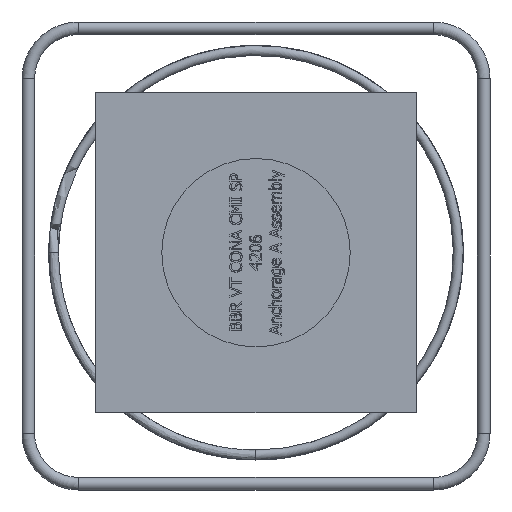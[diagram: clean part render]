
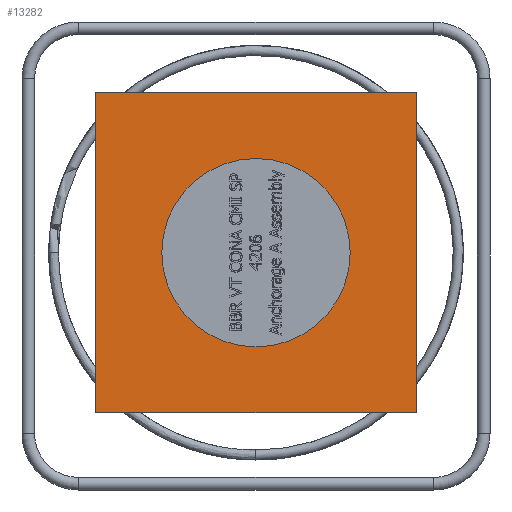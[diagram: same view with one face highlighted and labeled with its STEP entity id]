
A CAD part, left-side view. The second image highlights one B-rep face of the part: STEP entity #13282.
In plain terms, the highlighted planar face has unit normal (-1, 0, 0).
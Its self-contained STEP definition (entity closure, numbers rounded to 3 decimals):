
#1959=LINE('',#29020,#3031);
#1963=LINE('',#29027,#3035);
#1966=LINE('',#29032,#3038);
#1969=LINE('',#29036,#3041);
#3031=VECTOR('',#15855,510.);
#3035=VECTOR('',#15861,510.);
#3038=VECTOR('',#15866,510.);
#3041=VECTOR('',#15871,510.);
#3363=PLANE('',#13797);
#3551=FACE_BOUND('',#5115,.T.);
#4268=FACE_OUTER_BOUND('',#5114,.T.);
#5114=EDGE_LOOP('',(#11742,#11743,#11744,#11745));
#5115=EDGE_LOOP('',(#11746));
#5239=CIRCLE('',#13753,150.);
#6441=VERTEX_POINT('',#23305);
#6469=VERTEX_POINT('',#29018);
#6470=VERTEX_POINT('',#29019);
#6472=VERTEX_POINT('',#29026);
#6473=VERTEX_POINT('',#29031);
#8201=EDGE_CURVE('',#6441,#6441,#5239,.T.);
#8231=EDGE_CURVE('',#6469,#6470,#1959,.T.);
#8235=EDGE_CURVE('',#6470,#6472,#1963,.T.);
#8238=EDGE_CURVE('',#6472,#6473,#1966,.T.);
#8241=EDGE_CURVE('',#6473,#6469,#1969,.T.);
#11742=ORIENTED_EDGE('',*,*,#8241,.T.);
#11743=ORIENTED_EDGE('',*,*,#8231,.T.);
#11744=ORIENTED_EDGE('',*,*,#8235,.T.);
#11745=ORIENTED_EDGE('',*,*,#8238,.T.);
#11746=ORIENTED_EDGE('',*,*,#8201,.T.);
#13282=ADVANCED_FACE('',(#4268,#3551),#3363,.T.);
#13753=AXIS2_PLACEMENT_3D('',#23306,#15767,#15768);
#13797=AXIS2_PLACEMENT_3D('',#29038,#15873,#15874);
#15767=DIRECTION('center_axis',(1.,0.,0.));
#15768=DIRECTION('ref_axis',(0.,0.,
-1.));
#15855=DIRECTION('',(0.,0.,-1.));
#15861=DIRECTION('',(0.,-1.,0.));
#15866=DIRECTION('',(0.,0.,1.));
#15871=DIRECTION('',(0.,1.,0.));
#15873=DIRECTION('center_axis',(-1.,0.,0.));
#15874=DIRECTION('ref_axis',(0.,0.,-1.));
#23305=CARTESIAN_POINT('',(-112.151,0.,-144.747));
#23306=CARTESIAN_POINT('Origin',(-112.151,0.,
5.253));
#29018=CARTESIAN_POINT('',(-112.151,255.,260.253));
#29019=CARTESIAN_POINT('',(-112.151,255.,-249.747));
#29020=CARTESIAN_POINT('',(-112.151,255.,260.253));
#29026=CARTESIAN_POINT('',(-112.151,-255.,-249.747));
#29027=CARTESIAN_POINT('',(-112.151,255.,-249.747));
#29031=CARTESIAN_POINT('',(-112.151,-255.,260.253));
#29032=CARTESIAN_POINT('',(-112.151,-255.,-249.747));
#29036=CARTESIAN_POINT('',(-112.151,-255.,260.253));
#29038=CARTESIAN_POINT('Origin',(-112.151,0.,5.253));
